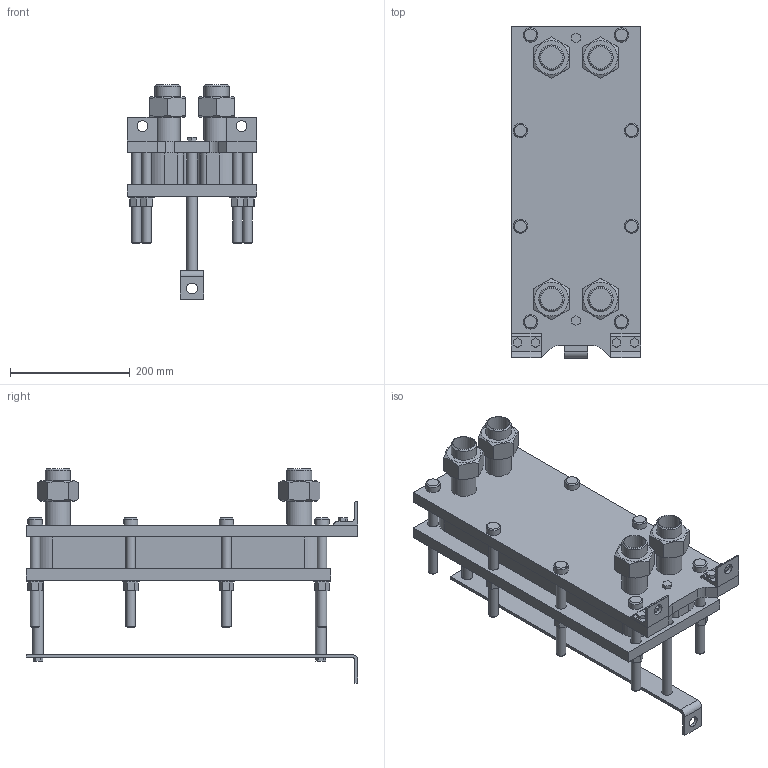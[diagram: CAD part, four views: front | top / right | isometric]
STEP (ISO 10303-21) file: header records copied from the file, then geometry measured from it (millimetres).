
FILE_DESCRIPTION(/* description */ (''),/* implementation_level */ '2;1');
FILE_NAME(/* name */ 'C:\Users\zhuro\Desktop\ENCO\TO\ЭН-004\ЭН-0,5-004-17-1.stp',/* time_stamp */ '2022-06-06T10:45:00+03:00',/* author */ ('zhuro'),/* organization */ (''),/* preprocessor_version */ 'ST-DEVELOPER v18.1',/* originating_system */ 'Autodesk Inventor 2022',/* authorisation */ '');
FILE_SCHEMA (('AUTOMOTIVE_DESIGN { 1 0 10303 214 3 1 1 }'));
Length unit declared in the file: millimetre
Products named in the file (1): ЭН-0,5-004-17-1
Bounding box: 216 x 555 x 358.6 mm (x, y, z)
Volume: 9415445.5 mm3; surface area: 1073255.9 mm2
Topology: 40 solids, 40 shells, 403 faces, 865 edges, 574 vertices
Faces by surface type: plane 272, cylinder 103, cone 28
Full cylindrical faces by diameter (mm): 10 x4, 16 x16, 18 x29, 20 x2, 24 x8, 28 x8, 36.3 x5, 42.3 x9
Entity records: 11137 total; most frequent: CARTESIAN_POINT 1939, DIRECTION 1879, ORIENTED_EDGE 1730, EDGE_CURVE 865, AXIS2_PLACEMENT_3D 658, VERTEX_POINT 574, LINE 563, VECTOR 563
